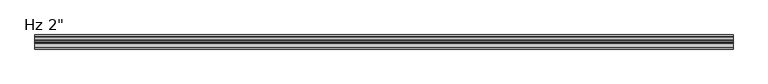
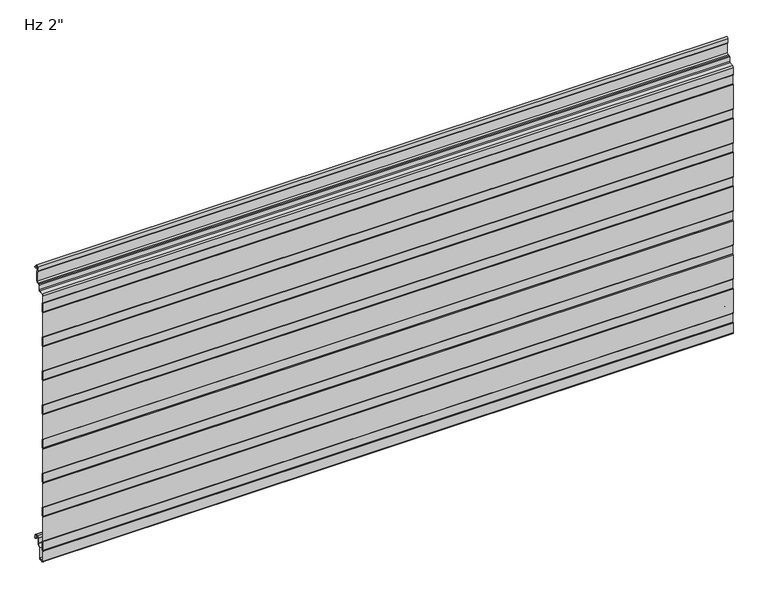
"""IFC4 building model written with IfcOpenShell, lengths in millimetres: plate geometry."""

from ifc_helpers import new_model, si_unit, point, frame, frame_2d, origin, place, context, project, spatial, polyline, circle_curve, trimmed, segment, composite_curve, outline, extrude, source, transform, mapped, element, save


def plate_8edaaf57(model_context):
    return source(origin(), model_context, "Body", "SweptSolid", [
        extrude(outline(composite_curve([segment(trimmed(circle_curve(frame_2d((-49.3998717, -10.6415934)), 1.3998661), [point((-50.7997378, -10.6415934))], [point((-50.3324955, -9.5976403))], False, "CARTESIAN"), True, "CONTINUOUS"), segment(polyline([(-50.3324955, -9.5976403), (-49.5997693, -8.8649141), (-49.5997693, 10.0260713), (-50.3327349, 10.7590369)]), True, "CONTINUOUS"), segment(trimmed(circle_curve(frame_2d((-49.4000237, 11.8030877)), 1.3999972), [point((-50.3327349, 10.7590369))], [point((-50.8, 11.810741))], False, "CARTESIAN"), True, "CONTINUOUS"), segment(polyline([(-50.8, 11.810741), (-50.8, 65.5582542)]), True, "CONTINUOUS"), segment(trimmed(circle_curve(frame_2d((-49.4000028, 65.5582542)), 1.3999972), [point((-50.8, 65.5582542))], [point((-50.332714, 66.602305))], False, "CARTESIAN"), True, "CONTINUOUS"), segment(polyline([(-50.332714, 66.602305), (-49.5997693, 67.3352497), (-49.5997693, 86.2259189), (-50.3327349, 86.9588845)]), True, "CONTINUOUS"), segment(trimmed(circle_curve(frame_2d((-49.4000237, 88.0029353)), 1.3999972), [point((-50.3327349, 86.9588845))], [point((-50.8, 88.0105886))], False, "CARTESIAN"), True, "CONTINUOUS"), segment(polyline([(-50.8, 88.0105886), (-50.8, 141.7581018)]), True, "CONTINUOUS"), segment(trimmed(circle_curve(frame_2d((-49.4000028, 141.7581018)), 1.3999972), [point((-50.8, 141.7581018))], [point((-50.332714, 142.8021526))], False, "CARTESIAN"), True, "CONTINUOUS"), segment(polyline([(-50.332714, 142.8021526), (-49.5997693, 143.5350973), (-49.5997693, 162.4257665), (-50.3327349, 163.1587321)]), True, "CONTINUOUS"), segment(trimmed(circle_curve(frame_2d((-49.4000237, 164.2027829)), 1.3999972), [point((-50.3327349, 163.1587321))], [point((-50.8, 164.2104362))], False, "CARTESIAN"), True, "CONTINUOUS"), segment(polyline([(-50.8, 164.2104362), (-50.8, 217.9579494)]), True, "CONTINUOUS"), segment(trimmed(circle_curve(frame_2d((-49.4000028, 217.9579494)), 1.3999972), [point((-50.8, 217.9579494))], [point((-50.332714, 219.0020002))], False, "CARTESIAN"), True, "CONTINUOUS"), segment(polyline([(-50.332714, 219.0020002), (-49.5997693, 219.7349449), (-49.5997693, 238.6256141), (-50.3327349, 239.3585797)]), True, "CONTINUOUS"), segment(trimmed(circle_curve(frame_2d((-49.4000237, 240.4026305)), 1.3999972), [point((-50.3327349, 239.3585797))], [point((-50.8, 240.4102838))], False, "CARTESIAN"), True, "CONTINUOUS"), segment(polyline([(-50.8, 240.4102838), (-50.8, 294.157797)]), True, "CONTINUOUS"), segment(trimmed(circle_curve(frame_2d((-49.4000028, 294.157797)), 1.3999972), [point((-50.8, 294.157797))], [point((-50.332714, 295.2018478))], False, "CARTESIAN"), True, "CONTINUOUS"), segment(polyline([(-50.332714, 295.2018478), (-49.5997693, 295.9347925), (-49.5997693, 314.8254617), (-50.3327349, 315.5584273)]), True, "CONTINUOUS"), segment(trimmed(circle_curve(frame_2d((-49.4000237, 316.6024781)), 1.3999972), [point((-50.3327349, 315.5584273))], [point((-50.8, 316.6101314))], False, "CARTESIAN"), True, "CONTINUOUS"), segment(polyline([(-50.8, 316.6101314), (-50.8, 370.3576446)]), True, "CONTINUOUS"), segment(trimmed(circle_curve(frame_2d((-49.4000028, 370.3576446)), 1.3999972), [point((-50.8, 370.3576446))], [point((-50.332714, 371.4016954))], False, "CARTESIAN"), True, "CONTINUOUS"), segment(polyline([(-50.332714, 371.4016954), (-49.5997693, 372.1346401), (-49.5997693, 391.0253093), (-50.3327349, 391.7582749)]), True, "CONTINUOUS"), segment(trimmed(circle_curve(frame_2d((-49.4000237, 392.8023257)), 1.3999972), [point((-50.3327349, 391.7582749))], [point((-50.8, 392.809979))], False, "CARTESIAN"), True, "CONTINUOUS"), segment(polyline([(-50.8, 392.809979), (-50.8, 446.5574922)]), True, "CONTINUOUS"), segment(trimmed(circle_curve(frame_2d((-49.4000028, 446.5574922)), 1.3999972), [point((-50.8, 446.5574922))], [point((-50.332714, 447.601543))], False, "CARTESIAN"), True, "CONTINUOUS"), segment(polyline([(-50.332714, 447.601543), (-49.5997693, 448.3344877), (-49.5997693, 467.2251569), (-50.3327349, 467.9581225)]), True, "CONTINUOUS"), segment(trimmed(circle_curve(frame_2d((-49.4000237, 469.0021733)), 1.3999972), [point((-50.3327349, 467.9581225))], [point((-50.8, 469.0098266))], False, "CARTESIAN"), True, "CONTINUOUS"), segment(polyline([(-50.8, 469.0098266), (-50.8, 522.7573398)]), True, "CONTINUOUS"), segment(trimmed(circle_curve(frame_2d((-49.4000028, 522.7573398)), 1.3999972), [point((-50.8, 522.7573398))], [point((-50.332714, 523.8013906))], False, "CARTESIAN"), True, "CONTINUOUS"), segment(polyline([(-50.332714, 523.8013906), (-49.5997693, 524.5343353), (-49.5997693, 543.4250045), (-50.3327349, 544.1579701)]), True, "CONTINUOUS"), segment(trimmed(circle_curve(frame_2d((-49.4000237, 545.2020209)), 1.3999972), [point((-50.3327349, 544.1579701))], [point((-50.7990984, 545.2528361))], False, "CARTESIAN"), True, "CONTINUOUS"), segment(polyline([(-50.7990984, 545.2528361), (-50.7990984, 561.1384359)]), True, "CONTINUOUS"), segment(trimmed(circle_curve(frame_2d((-47.8491043, 561.1384359)), 2.9499941), [point((-50.7990984, 561.1384359))], [point((-48.1062132, 564.0772044))], False, "CARTESIAN"), True, "CONTINUOUS"), segment(polyline([(-48.1062132, 564.0772044), (-39.6419168, 564.8177344)]), True, "CONTINUOUS"), segment(trimmed(circle_curve(frame_2d((-39.8188426, 566.8400056)), 2.0299959), [point((-39.6419168, 564.8177344))], [point((-37.7914567, 566.9429135))], True, "CARTESIAN"), True, "CONTINUOUS"), segment(polyline([(-37.7914567, 566.9429135), (-37.7914567, 577.0595941)]), True, "CONTINUOUS"), segment(trimmed(circle_curve(frame_2d((-35.8423033, 577.0595941)), 1.9491534), [point((-37.7914567, 577.0595941))], [point((-35.8423033, 579.0087475))], False, "CARTESIAN"), True, "CONTINUOUS"), segment(polyline([(-35.8423033, 579.0087475), (-32.7009036, 579.0087475)]), True, "CONTINUOUS"), segment(trimmed(circle_curve(frame_2d((-32.7009036, 582.0087415)), 2.999994), [point((-32.7009036, 579.0087475))], [point((-29.7009096, 582.0087415))], True, "CARTESIAN"), True, "CONTINUOUS"), segment(polyline([(-29.7009096, 582.0087415), (-29.7009096, 602.6122013), (-30.9467537, 603.3314897)]), True, "CONTINUOUS"), segment(trimmed(circle_curve(frame_2d((-30.2217552, 604.587224)), 1.4499971), [point((-30.9467537, 603.3314897))], [point((-31.6709833, 604.6344401))], False, "CARTESIAN"), True, "CONTINUOUS"), segment(polyline([(-31.6709833, 604.6344401), (-31.326075, 613.3463704)]), True, "CONTINUOUS"), segment(trimmed(circle_curve(frame_2d((-28.2266291, 613.2236622)), 3.1018739), [point((-31.326075, 613.3463704))], [point((-25.1275082, 613.3543204))], False, "CARTESIAN"), True, "CONTINUOUS"), segment(polyline([(-25.1275082, 613.3543204), (-24.8837214, 609.3587)]), True, "CONTINUOUS"), segment(trimmed(circle_curve(frame_2d((-24.0434917, 609.4099653)), 0.8417922), [point((-24.8837214, 609.3587))], [point((-24.0729389, 608.5686884))], True, "CARTESIAN"), True, "CONTINUOUS"), segment(polyline([(-24.0729389, 608.5686884), (-21.3025061, 608.5686884), (-21.3025061, 607.5686884), (-24.0870527, 607.5686884)]), True, "CONTINUOUS"), segment(trimmed(circle_curve(frame_2d((-24.0434917, 609.4099653)), 1.8417922), [point((-24.0870527, 607.5686884))], [point((-25.8818653, 609.2977997))], False, "CARTESIAN"), True, "CONTINUOUS"), segment(polyline([(-25.8818653, 609.2977997), (-26.1262802, 613.3037148)]), True, "CONTINUOUS"), segment(trimmed(circle_curve(frame_2d((-28.2266291, 613.2236622)), 2.1018739), [point((-26.1262802, 613.3037148))], [point((-30.3268578, 613.306811))], True, "CARTESIAN"), True, "CONTINUOUS"), segment(polyline([(-30.3268578, 613.306811), (-30.6821181, 604.3334028), (-28.7009096, 603.1895515), (-28.7009096, 582.0087415)]), True, "CONTINUOUS"), segment(trimmed(circle_curve(frame_2d((-32.7009036, 582.0087415)), 3.999994), [point((-28.7009096, 582.0087415))], [point((-32.7009036, 578.0087475))], False, "CARTESIAN"), True, "CONTINUOUS"), segment(polyline([(-32.7009036, 578.0087475), (-35.8423033, 578.0087475)]), True, "CONTINUOUS"), segment(trimmed(circle_curve(frame_2d((-35.8423033, 577.0595941)), 0.9491534), [point((-35.8423033, 578.0087475))], [point((-36.7914567, 577.0595941))], True, "CARTESIAN"), True, "CONTINUOUS"), segment(polyline([(-36.7914567, 577.0595941), (-36.7914567, 566.9657441)]), True, "CONTINUOUS"), segment(trimmed(circle_curve(frame_2d((-39.8188426, 566.8400056)), 3.0299959), [point((-36.7914567, 566.9657441))], [point((-39.554761, 563.8215397))], False, "CARTESIAN"), True, "CONTINUOUS"), segment(polyline([(-39.554761, 563.8215397), (-48.0190575, 563.0810097)]), True, "CONTINUOUS"), segment(trimmed(circle_curve(frame_2d((-47.8491043, 561.1384359)), 1.9499941), [point((-48.0190575, 563.0810097))], [point((-49.7990984, 561.1384359))], True, "CARTESIAN"), True, "CONTINUOUS"), segment(polyline([(-49.7990984, 561.1384359), (-49.7990984, 545.0396538), (-48.5997693, 543.8403247), (-48.5997693, 524.1209122), (-49.8, 522.9206815), (-49.8, 468.8405497), (-48.5997693, 467.640319), (-48.5997693, 447.9209065), (-49.8, 446.7206758), (-49.8, 392.640544), (-48.5997693, 391.4403133), (-48.5997693, 371.7209008), (-49.8, 370.5206701), (-49.8, 316.4405383), (-48.5997693, 315.2403076), (-48.5997693, 295.5208951), (-49.8, 294.3206644), (-49.8, 240.2405326), (-48.5997693, 239.0403019), (-48.5997693, 219.3208894), (-49.8, 218.1206587), (-49.8, 164.0405269), (-48.5997693, 162.8402962), (-48.5997693, 143.1208837), (-49.8, 141.920653), (-49.8, 87.8405213), (-48.5997693, 86.6402905), (-48.5997693, 66.920878), (-49.8, 65.7206473), (-49.8, 11.6405156), (-48.5997693, 10.4402849), (-48.5997693, -9.2791277), (-49.7997378, -10.4790962), (-49.7997378, -32.4521176)]), True, "CONTINUOUS"), segment(trimmed(circle_curve(frame_2d((-47.2294985, -32.4521176)), 2.5702393), [point((-49.7997378, -32.4521176))], [point((-47.0054129, -35.0125699))], True, "CARTESIAN"), True, "CONTINUOUS"), segment(polyline([(-47.0054129, -35.0125699), (-42.023592, -34.5765709)]), True, "CONTINUOUS"), segment(trimmed(circle_curve(frame_2d((-42.5049826, -31.9198392)), 2.6999926), [point((-42.023592, -34.5765709))], [point((-39.80499, -31.9198392))], True, "CARTESIAN"), True, "CONTINUOUS"), segment(polyline([(-39.80499, -31.9198392), (-39.80499, -9.8247096), (-34.3029189, -4.3226385)]), True, "CONTINUOUS"), segment(trimmed(circle_curve(frame_2d((-35.5049966, -3.1205608)), 1.6999946), [point((-34.3029189, -4.3226385))], [point((-33.805002, -3.1205608))], True, "CARTESIAN"), True, "CONTINUOUS"), segment(polyline([(-33.805002, -3.1205608), (-33.805002, 8.6903283)]), True, "CONTINUOUS"), segment(trimmed(circle_curve(frame_2d((-30.4550067, 8.6903283)), 3.3499953), [point((-33.805002, 8.6903283))], [point((-30.4550067, 12.0403236))], False, "CARTESIAN"), True, "CONTINUOUS"), segment(polyline([(-30.4550067, 12.0403236), (-26.0550155, 12.0403236)]), True, "CONTINUOUS"), segment(trimmed(circle_curve(frame_2d((-26.0550155, 8.6903283)), 3.3499953), [point((-26.0550155, 12.0403236))], [point((-22.7050202, 8.6903283))], False, "CARTESIAN"), True, "CONTINUOUS"), segment(polyline([(-22.7050202, 8.6903283), (-22.7050202, 5.9912173), (-21.3065413, 5.9912173), (-21.3065413, 2.2328239)]), True, "CONTINUOUS"), segment(trimmed(circle_curve(frame_2d((-22.506538, 2.2313092)), 1.1999976), [point((-21.3065413, 2.2328239))], [point((-22.4760161, 1.0316999))], False, "CARTESIAN"), True, "CONTINUOUS"), segment(trimmed(circle_curve(frame_2d((-22.506538, 2.2313092)), 1.1999976), [point((-22.4760161, 1.0316999))], [point((-23.7050202, 2.1710221))], False, "CARTESIAN"), True, "CONTINUOUS"), segment(polyline([(-23.7050202, 2.1710221), (-23.7050202, 8.6903283)]), True, "CONTINUOUS"), segment(trimmed(circle_curve(frame_2d((-26.0550155, 8.6903283)), 2.3499953), [point((-23.7050202, 8.6903283))], [point((-26.0550155, 11.0403236))], True, "CARTESIAN"), True, "CONTINUOUS"), segment(polyline([(-26.0550155, 11.0403236), (-30.4550067, 11.0403236)]), True, "CONTINUOUS"), segment(trimmed(circle_curve(frame_2d((-30.4550067, 8.6903283)), 2.3499953), [point((-30.4550067, 11.0403236))], [point((-32.805002, 8.6903283))], True, "CARTESIAN"), True, "CONTINUOUS"), segment(polyline([(-32.805002, 8.6903283), (-32.805002, -3.1205608)]), True, "CONTINUOUS"), segment(trimmed(circle_curve(frame_2d((-35.5049966, -3.1205608)), 2.6999946), [point((-32.805002, -3.1205608))], [point((-33.5958121, -5.0297453))], False, "CARTESIAN"), True, "CONTINUOUS"), segment(polyline([(-33.5958121, -5.0297453), (-38.4242296, -9.8581627)]), True, "CONTINUOUS"), segment(trimmed(circle_curve(frame_2d((-37.5049926, -10.7773997)), 1.2999974), [point((-38.4242296, -9.8581627))], [point((-38.80499, -10.7773997))], True, "CARTESIAN"), True, "CONTINUOUS"), segment(polyline([(-38.80499, -10.7773997), (-38.80499, -31.9198392)]), True, "CONTINUOUS"), segment(trimmed(circle_curve(frame_2d((-42.5049826, -31.9198392)), 3.6999926), [point((-38.80499, -31.9198392))], [point((-41.8941815, -35.5690675))], False, "CARTESIAN"), True, "CONTINUOUS"), segment(polyline([(-41.8941815, -35.5690675), (-46.9182281, -36.008762)]), True, "CONTINUOUS"), segment(trimmed(circle_curve(frame_2d((-47.2294985, -32.4521176)), 3.5702393), [point((-46.9182281, -36.008762))], [point((-50.7997378, -32.4521176))], False, "CARTESIAN"), True, "CONTINUOUS"), segment(polyline([(-50.7997378, -32.4521176), (-50.7997378, -10.6415934)]), True, "CONTINUOUS")], self_intersect=False)), frame((-730.0, 0.0, 0.0), z_axis=(1.0, 0.0, 0.0), x_axis=(0.0, 1.0, 0.0)), (0.0, 0.0, 1.0), 1460.0),
    ])


if __name__ == "__main__":
    model = new_model("IFC4")
    model_context = context("Model", 3, world=origin())
    ifc_project = project(units=[si_unit("LENGTHUNIT", "METRE", prefix="MILLI")], contexts=[model_context])
    site = spatial("IfcSite", under=ifc_project)
    building = spatial("IfcBuilding", under=site)
    placement = place(None, origin())
    plate_shape = plate_8edaaf57(model_context)
    element("IfcPlate", 1, ObjectType="KIP-24-Karrier-KP-R19-CP-Hz-SL3-8in_SL : Hz 2\"", at=placement, inside=building, context=model_context, shape_type="MappedRepresentation", body=[
        mapped(plate_shape, transform((0.0, 0.0, 0.0), x_axis=(1.0, 0.0, 0.0), y_axis=(0.0, 1.0, 0.0), z_axis=(0.0, 0.0, 1.0))),
    ])
    save(model, "model.ifc")
